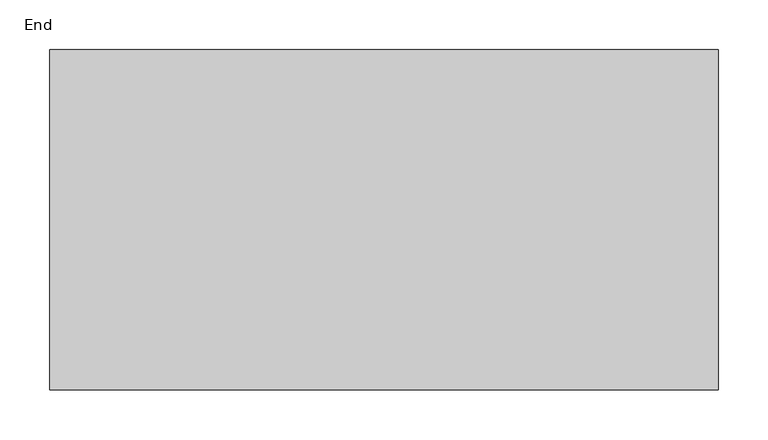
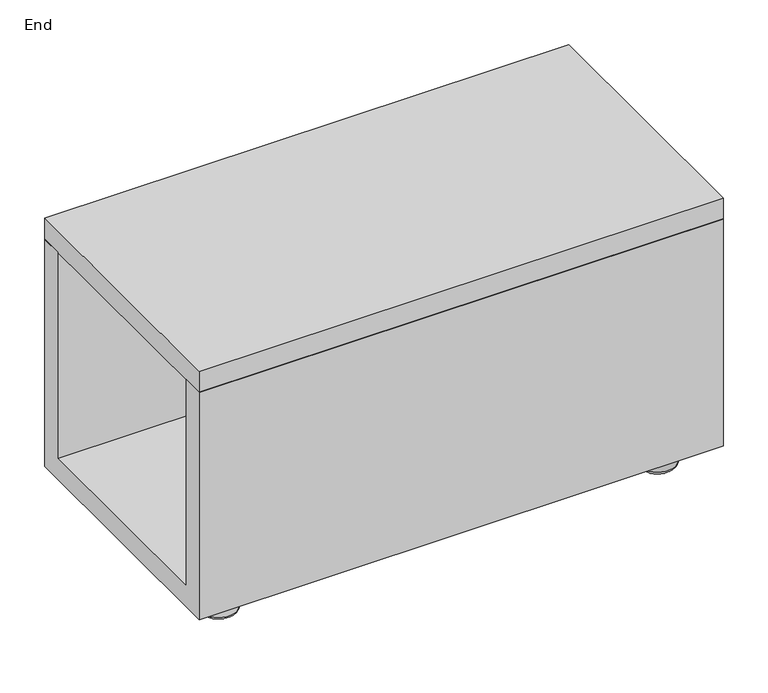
"""IFC4 building model written with IfcOpenShell, lengths in millimetres: furniture geometry, Steelcase Turnstone - Jenny - Table - Occasional - Low Feet : End."""

from ifc_helpers import new_model, si_unit, point, frame, origin, place, context, project, spatial, polyline, circle_curve, ellipse_curve, trimmed, outline, extrude, source, transform, mapped, element, save
from ifc_brep_helpers import plane_surface, cylinder_surface, revolved_surface, advanced_brep


def end_708bf382(model_context):
    return source(origin(), model_context, "Body", "SolidModel", [
        advanced_brep(
        [(629.9212936, -291.0741914, 0.0), (607.2241711, -291.0741914, 0.0), (618.5727324, -291.0741914, 0.0), (631.1912935, -291.0741914, 1.2699999), (605.9541712, -291.0741914, 1.2699999), (631.1912935, -291.0741914, 2.9122677), (605.9541712, -291.0741914, 2.9122677), (638.1106836, -291.0741914, 2.9122677), (599.0347811, -291.0741914, 2.9122677), (642.0900352, -291.0741914, 6.5984053), (595.0554295, -291.0741914, 6.5984053), (642.9427038, -291.0741914, 38.1), (594.2027609, -291.0741914, 38.1), (618.5727324, -291.0741914, 38.1)],
        [
            (0, 1, circle_curve(frame((618.5727324, -291.0741914, 0.0), z_axis=(0.0, 0.0, -1.0), x_axis=(-1.0, 0.0, 0.0)), 11.3485612)),
            (1, 2),
            (2, 0),
            (1, 0, circle_curve(frame((618.5727324, -291.0741914, 0.0), z_axis=(0.0, 0.0, -1.0), x_axis=(-1.0, 0.0, 0.0)), 11.3485612)),
            (3, 4, circle_curve(frame((618.5727324, -291.0741914, 1.2699999), z_axis=(0.0, 0.0, -1.0), x_axis=(-1.0, 0.0, 0.0)), 12.6185612)),
            (4, 1),
            (0, 3),
            (4, 3, circle_curve(frame((618.5727324, -291.0741914, 1.2699999), z_axis=(0.0, 0.0, -1.0), x_axis=(-1.0, 0.0, 0.0)), 12.6185612)),
            (5, 6, circle_curve(frame((618.5727324, -291.0741914, 2.9122677), z_axis=(0.0, 0.0, -1.0), x_axis=(-1.0, 0.0, 0.0)), 12.6185612)),
            (6, 4),
            (3, 5),
            (6, 5, circle_curve(frame((618.5727324, -291.0741914, 2.9122677), z_axis=(0.0, 0.0, -1.0), x_axis=(-1.0, 0.0, 0.0)), 12.6185612)),
            (7, 8, circle_curve(frame((618.5727324, -291.0741914, 2.9122677), z_axis=(0.0, 0.0, -1.0), x_axis=(-1.0, 0.0, 0.0)), 19.5379512)),
            (8, 6),
            (5, 7),
            (8, 7, circle_curve(frame((618.5727324, -291.0741914, 2.9122677), z_axis=(0.0, 0.0, -1.0), x_axis=(-1.0, 0.0, 0.0)), 19.5379512)),
            (9, 10, circle_curve(frame((618.5727324, -291.0741914, 6.5984053), z_axis=(0.0, 0.0, -1.0), x_axis=(-1.0, 0.0, 0.0)), 23.5173029)),
            (10, 8, circle_curve(frame((599.0347811, -291.0741914, 6.9032812), z_axis=(0.0, -1.0, 0.0), x_axis=(0.0, 0.0, -1.0)), 3.9910135)),
            (7, 9, circle_curve(frame((638.1106836, -291.0741914, 6.9032812), z_axis=(0.0, -1.0, 0.0), x_axis=(0.0, 0.0, -1.0)), 3.9910135)),
            (10, 9, circle_curve(frame((618.5727324, -291.0741914, 6.5984053), z_axis=(0.0, 0.0, -1.0), x_axis=(-1.0, 0.0, 0.0)), 23.5173029)),
            (11, 12, circle_curve(frame((618.5727324, -291.0741914, 38.1), z_axis=(0.0, 0.0, -1.0), x_axis=(-1.0, 0.0, 0.0)), 24.3699714)),
            (12, 10),
            (9, 11),
            (12, 11, circle_curve(frame((618.5727324, -291.0741914, 38.1), z_axis=(0.0, 0.0, -1.0), x_axis=(-1.0, 0.0, 0.0)), 24.3699714)),
            (13, 12),
            (11, 13),
        ],
        [
            plane_surface(frame((618.5727324, -291.0741914, 0.0), z_axis=(0.0, 0.0, -1.0), x_axis=(-1.0, 0.0, 0.0))),
            revolved_surface(polyline([(607.2241711, -291.0741914, 0.0), (605.9541712, -291.0741914, 1.2699999)]), (618.5727324, -291.0741914, 95.7636405), (0.0, 0.0, 1.0)),
            cylinder_surface(frame((618.5727324, -291.0741914, 95.7636405), z_axis=(0.0, 0.0, 1.0), x_axis=(-1.0, 0.0, 0.0)), 12.6185612),
            plane_surface(frame((618.5727324, -291.0741914, 2.9122677), z_axis=(0.0, 0.0, -1.0), x_axis=(-1.0, 0.0, 0.0))),
            revolved_surface(trimmed(ellipse_curve(frame((599.0347811, -291.0741914, 6.9032812), z_axis=(0.0, 1.0, 0.0), x_axis=(0.0, 0.0, -1.0)), 3.9910135, 3.9910135), [point((599.0347811, -291.0741914, 2.9122677))], [point((595.0554295, -291.0741914, 6.5984053))], True, "CARTESIAN"), (618.5727324, -291.0741914, 95.7636405), (0.0, 0.0, 1.0)),
            revolved_surface(polyline([(595.0554295, -291.0741914, 6.5984053), (594.2027609, -291.0741914, 38.1)]), (618.5727324, -291.0741914, 95.7636405), (0.0, 0.0, 1.0)),
            plane_surface(frame((618.5727324, -291.0741914, 38.1), z_axis=(0.0, 0.0, 1.0), x_axis=(-1.0, 0.0, 0.0))),
        ],
        [
            (0, [[1, 2, 3]]),
            (0, [[4, -3, -2]]),
            (1, [[5, 6, -1, 7]]),
            (1, [[8, -7, -4, -6]]),
            (2, [[9, 10, -5, 11]]),
            (2, [[12, -11, -8, -10]]),
            (3, [[13, 14, -9, 15]]),
            (3, [[16, -15, -12, -14]]),
            (4, [[17, 18, -13, 19]]),
            (4, [[20, -19, -16, -18]]),
            (5, [[21, 22, -17, 23]]),
            (5, [[24, -23, -20, -22]]),
            (6, [[25, -21, 26]]),
            (6, [[-26, -24, -25]]),
        ],
    ),
        advanced_brep(
        [(54.5272676, -291.0741914, 0.0), (65.8758289, -291.0741914, 0.0), (43.1787064, -291.0741914, 0.0), (67.1458288, -291.0741914, 1.2699999), (41.9087065, -291.0741914, 1.2699999), (67.1458288, -291.0741914, 2.9122677), (41.9087065, -291.0741914, 2.9122677), (74.0652189, -291.0741914, 2.9122677), (34.9893164, -291.0741914, 2.9122677), (78.0445705, -291.0741914, 6.5984053), (31.0099648, -291.0741914, 6.5984053), (78.8972391, -291.0741914, 38.1), (30.1572962, -291.0741914, 38.1), (54.5272676, -291.0741914, 38.1)],
        [
            (0, 1),
            (1, 2, circle_curve(frame((54.5272676, -291.0741914, 0.0), z_axis=(0.0, 0.0, -1.0), x_axis=(1.0, 0.0, 0.0)), 11.3485612)),
            (2, 0),
            (2, 1, circle_curve(frame((54.5272676, -291.0741914, 0.0), z_axis=(0.0, 0.0, -1.0), x_axis=(1.0, 0.0, 0.0)), 11.3485612)),
            (1, 3),
            (3, 4, circle_curve(frame((54.5272676, -291.0741914, 1.2699999), z_axis=(0.0, 0.0, -1.0), x_axis=(1.0, 0.0, 0.0)), 12.6185612)),
            (4, 2),
            (4, 3, circle_curve(frame((54.5272676, -291.0741914, 1.2699999), z_axis=(0.0, 0.0, -1.0), x_axis=(1.0, 0.0, 0.0)), 12.6185612)),
            (3, 5),
            (5, 6, circle_curve(frame((54.5272676, -291.0741914, 2.9122677), z_axis=(0.0, 0.0, -1.0), x_axis=(1.0, 0.0, 0.0)), 12.6185612)),
            (6, 4),
            (6, 5, circle_curve(frame((54.5272676, -291.0741914, 2.9122677), z_axis=(0.0, 0.0, -1.0), x_axis=(1.0, 0.0, 0.0)), 12.6185612)),
            (5, 7),
            (7, 8, circle_curve(frame((54.5272676, -291.0741914, 2.9122677), z_axis=(0.0, 0.0, -1.0), x_axis=(1.0, 0.0, 0.0)), 19.5379512)),
            (8, 6),
            (8, 7, circle_curve(frame((54.5272676, -291.0741914, 2.9122677), z_axis=(0.0, 0.0, -1.0), x_axis=(1.0, 0.0, 0.0)), 19.5379512)),
            (7, 9, circle_curve(frame((74.0652189, -291.0741914, 6.9032812), z_axis=(0.0, -1.0, 0.0), x_axis=(0.0, 0.0, -1.0)), 3.9910135)),
            (9, 10, circle_curve(frame((54.5272676, -291.0741914, 6.5984053), z_axis=(0.0, 0.0, -1.0), x_axis=(1.0, 0.0, 0.0)), 23.5173029)),
            (10, 8, circle_curve(frame((34.9893164, -291.0741914, 6.9032812), z_axis=(0.0, -1.0, 0.0), x_axis=(0.0, 0.0, -1.0)), 3.9910135)),
            (10, 9, circle_curve(frame((54.5272676, -291.0741914, 6.5984053), z_axis=(0.0, 0.0, -1.0), x_axis=(1.0, 0.0, 0.0)), 23.5173029)),
            (9, 11),
            (11, 12, circle_curve(frame((54.5272676, -291.0741914, 38.1), z_axis=(0.0, 0.0, -1.0), x_axis=(1.0, 0.0, 0.0)), 24.3699714)),
            (12, 10),
            (12, 11, circle_curve(frame((54.5272676, -291.0741914, 38.1), z_axis=(0.0, 0.0, -1.0), x_axis=(1.0, 0.0, 0.0)), 24.3699714)),
            (11, 13),
            (13, 12),
        ],
        [
            plane_surface(frame((54.5272676, -291.0741914, 0.0), z_axis=(0.0, 0.0, -1.0), x_axis=(1.0, 0.0, 0.0))),
            revolved_surface(polyline([(67.1458288, -291.0741914, 1.2699999), (65.8758289, -291.0741914, 0.0)]), (54.5272676, -291.0741914, 95.7636405), (0.0, 0.0, -1.0)),
            cylinder_surface(frame((54.5272676, -291.0741914, 95.7636405), z_axis=(0.0, 0.0, -1.0), x_axis=(1.0, 0.0, 0.0)), 12.6185612),
            plane_surface(frame((54.5272676, -291.0741914, 2.9122677), z_axis=(0.0, 0.0, -1.0), x_axis=(1.0, 0.0, 0.0))),
            revolved_surface(trimmed(ellipse_curve(frame((74.0652189, -291.0741914, 6.9032812), z_axis=(0.0, 1.0, 0.0), x_axis=(0.0, 0.0, -1.0)), 3.9910135, 3.9910135), [point((78.0445705, -291.0741914, 6.5984053))], [point((74.0652189, -291.0741914, 2.9122677))], True, "CARTESIAN"), (54.5272676, -291.0741914, 95.7636405), (0.0, 0.0, -1.0)),
            revolved_surface(polyline([(78.8972391, -291.0741914, 38.1), (78.0445705, -291.0741914, 6.5984053)]), (54.5272676, -291.0741914, 95.7636405), (0.0, 0.0, -1.0)),
            plane_surface(frame((54.5272676, -291.0741914, 38.1), z_axis=(0.0, 0.0, 1.0), x_axis=(1.0, 0.0, 0.0))),
        ],
        [
            (0, [[1, 2, 3]]),
            (0, [[-3, 4, -1]]),
            (1, [[-2, 5, 6, 7]]),
            (1, [[-4, -7, 8, -5]]),
            (2, [[-6, 9, 10, 11]]),
            (2, [[-8, -11, 12, -9]]),
            (3, [[-10, 13, 14, 15]]),
            (3, [[-12, -15, 16, -13]]),
            (4, [[-14, 17, 18, 19]]),
            (4, [[-16, -19, 20, -17]]),
            (5, [[-18, 21, 22, 23]]),
            (5, [[-20, -23, 24, -21]]),
            (6, [[-22, 25, 26]]),
            (6, [[-24, -26, -25]]),
        ],
    ),
        advanced_brep(
        [(618.5727324, -51.8258086, 0.0), (607.2241711, -51.8258086, 0.0), (629.9212936, -51.8258086, 0.0), (605.9541712, -51.8258086, 1.2699999), (631.1912935, -51.8258086, 1.2699999), (605.9541712, -51.8258086, 2.9122677), (631.1912935, -51.8258086, 2.9122677), (599.0347811, -51.8258086, 2.9122677), (638.1106836, -51.8258086, 2.9122677), (595.0554295, -51.8258086, 6.5984053), (642.0900352, -51.8258086, 6.5984053), (594.2027609, -51.8258086, 38.1), (642.9427038, -51.8258086, 38.1), (618.5727324, -51.8258086, 38.1)],
        [
            (0, 1),
            (1, 2, circle_curve(frame((618.5727324, -51.8258086, 0.0), z_axis=(0.0, 0.0, -1.0), x_axis=(-1.0, 0.0, 0.0)), 11.3485612)),
            (2, 0),
            (2, 1, circle_curve(frame((618.5727324, -51.8258086, 0.0), z_axis=(0.0, 0.0, -1.0), x_axis=(-1.0, 0.0, 0.0)), 11.3485612)),
            (1, 3),
            (3, 4, circle_curve(frame((618.5727324, -51.8258086, 1.2699999), z_axis=(0.0, 0.0, -1.0), x_axis=(-1.0, 0.0, 0.0)), 12.6185612)),
            (4, 2),
            (4, 3, circle_curve(frame((618.5727324, -51.8258086, 1.2699999), z_axis=(0.0, 0.0, -1.0), x_axis=(-1.0, 0.0, 0.0)), 12.6185612)),
            (3, 5),
            (5, 6, circle_curve(frame((618.5727324, -51.8258086, 2.9122677), z_axis=(0.0, 0.0, -1.0), x_axis=(-1.0, 0.0, 0.0)), 12.6185612)),
            (6, 4),
            (6, 5, circle_curve(frame((618.5727324, -51.8258086, 2.9122677), z_axis=(0.0, 0.0, -1.0), x_axis=(-1.0, 0.0, 0.0)), 12.6185612)),
            (5, 7),
            (7, 8, circle_curve(frame((618.5727324, -51.8258086, 2.9122677), z_axis=(0.0, 0.0, -1.0), x_axis=(-1.0, 0.0, 0.0)), 19.5379512)),
            (8, 6),
            (8, 7, circle_curve(frame((618.5727324, -51.8258086, 2.9122677), z_axis=(0.0, 0.0, -1.0), x_axis=(-1.0, 0.0, 0.0)), 19.5379512)),
            (7, 9, circle_curve(frame((599.0347811, -51.8258086, 6.9032812), z_axis=(0.0, 1.0, 0.0), x_axis=(0.0, 0.0, -1.0)), 3.9910135)),
            (9, 10, circle_curve(frame((618.5727324, -51.8258086, 6.5984053), z_axis=(0.0, 0.0, -1.0), x_axis=(-1.0, 0.0, 0.0)), 23.5173029)),
            (10, 8, circle_curve(frame((638.1106836, -51.8258086, 6.9032812), z_axis=(0.0, 1.0, 0.0), x_axis=(0.0, 0.0, -1.0)), 3.9910135)),
            (10, 9, circle_curve(frame((618.5727324, -51.8258086, 6.5984053), z_axis=(0.0, 0.0, -1.0), x_axis=(-1.0, 0.0, 0.0)), 23.5173029)),
            (9, 11),
            (11, 12, circle_curve(frame((618.5727324, -51.8258086, 38.1), z_axis=(0.0, 0.0, -1.0), x_axis=(-1.0, 0.0, 0.0)), 24.3699714)),
            (12, 10),
            (12, 11, circle_curve(frame((618.5727324, -51.8258086, 38.1), z_axis=(0.0, 0.0, -1.0), x_axis=(-1.0, 0.0, 0.0)), 24.3699714)),
            (11, 13),
            (13, 12),
        ],
        [
            plane_surface(frame((618.5727324, -51.8258086, 0.0), z_axis=(0.0, 0.0, -1.0), x_axis=(-1.0, 0.0, 0.0))),
            revolved_surface(polyline([(605.9541712, -51.8258086, 1.2699999), (607.2241711, -51.8258086, 0.0)]), (618.5727324, -51.8258086, 95.7636405), (0.0, 0.0, -1.0)),
            cylinder_surface(frame((618.5727324, -51.8258086, 95.7636405), z_axis=(0.0, 0.0, -1.0), x_axis=(-1.0, 0.0, 0.0)), 12.6185612),
            plane_surface(frame((618.5727324, -51.8258086, 2.9122677), z_axis=(0.0, 0.0, -1.0), x_axis=(-1.0, 0.0, 0.0))),
            revolved_surface(trimmed(ellipse_curve(frame((599.0347811, -51.8258086, 6.9032812), z_axis=(0.0, -1.0, 0.0), x_axis=(0.0, 0.0, -1.0)), 3.9910135, 3.9910135), [point((595.0554295, -51.8258086, 6.5984053))], [point((599.0347811, -51.8258086, 2.9122677))], True, "CARTESIAN"), (618.5727324, -51.8258086, 95.7636405), (0.0, 0.0, -1.0)),
            revolved_surface(polyline([(594.2027609, -51.8258086, 38.1), (595.0554295, -51.8258086, 6.5984053)]), (618.5727324, -51.8258086, 95.7636405), (0.0, 0.0, -1.0)),
            plane_surface(frame((618.5727324, -51.8258086, 38.1), z_axis=(0.0, 0.0, 1.0), x_axis=(-1.0, 0.0, 0.0))),
        ],
        [
            (0, [[1, 2, 3]]),
            (0, [[-3, 4, -1]]),
            (1, [[-2, 5, 6, 7]]),
            (1, [[-4, -7, 8, -5]]),
            (2, [[-6, 9, 10, 11]]),
            (2, [[-8, -11, 12, -9]]),
            (3, [[-10, 13, 14, 15]]),
            (3, [[-12, -15, 16, -13]]),
            (4, [[-14, 17, 18, 19]]),
            (4, [[-16, -19, 20, -17]]),
            (5, [[-18, 21, 22, 23]]),
            (5, [[-20, -23, 24, -21]]),
            (6, [[-22, 25, 26]]),
            (6, [[-24, -26, -25]]),
        ],
    ),
        advanced_brep(
        [(43.1787064, -51.8258086, 0.0), (65.8758289, -51.8258086, 0.0), (54.5272676, -51.8258086, 0.0), (41.9087065, -51.8258086, 1.2699999), (67.1458288, -51.8258086, 1.2699999), (41.9087065, -51.8258086, 2.9122677), (67.1458288, -51.8258086, 2.9122677), (34.9893164, -51.8258086, 2.9122677), (74.0652189, -51.8258086, 2.9122677), (31.0099648, -51.8258086, 6.5984053), (78.0445705, -51.8258086, 6.5984053), (30.1572962, -51.8258086, 38.1), (78.8972391, -51.8258086, 38.1), (54.5272676, -51.8258086, 38.1)],
        [
            (0, 1, circle_curve(frame((54.5272676, -51.8258086, 0.0), z_axis=(0.0, 0.0, -1.0), x_axis=(1.0, 0.0, 0.0)), 11.3485612)),
            (1, 2),
            (2, 0),
            (1, 0, circle_curve(frame((54.5272676, -51.8258086, 0.0), z_axis=(0.0, 0.0, -1.0), x_axis=(1.0, 0.0, 0.0)), 11.3485612)),
            (3, 4, circle_curve(frame((54.5272676, -51.8258086, 1.2699999), z_axis=(0.0, 0.0, -1.0), x_axis=(1.0, 0.0, 0.0)), 12.6185612)),
            (4, 1),
            (0, 3),
            (4, 3, circle_curve(frame((54.5272676, -51.8258086, 1.2699999), z_axis=(0.0, 0.0, -1.0), x_axis=(1.0, 0.0, 0.0)), 12.6185612)),
            (5, 6, circle_curve(frame((54.5272676, -51.8258086, 2.9122677), z_axis=(0.0, 0.0, -1.0), x_axis=(1.0, 0.0, 0.0)), 12.6185612)),
            (6, 4),
            (3, 5),
            (6, 5, circle_curve(frame((54.5272676, -51.8258086, 2.9122677), z_axis=(0.0, 0.0, -1.0), x_axis=(1.0, 0.0, 0.0)), 12.6185612)),
            (7, 8, circle_curve(frame((54.5272676, -51.8258086, 2.9122677), z_axis=(0.0, 0.0, -1.0), x_axis=(1.0, 0.0, 0.0)), 19.5379512)),
            (8, 6),
            (5, 7),
            (8, 7, circle_curve(frame((54.5272676, -51.8258086, 2.9122677), z_axis=(0.0, 0.0, -1.0), x_axis=(1.0, 0.0, 0.0)), 19.5379512)),
            (9, 10, circle_curve(frame((54.5272676, -51.8258086, 6.5984053), z_axis=(0.0, 0.0, -1.0), x_axis=(1.0, 0.0, 0.0)), 23.5173029)),
            (10, 8, circle_curve(frame((74.0652189, -51.8258086, 6.9032812), z_axis=(0.0, 1.0, 0.0), x_axis=(0.0, 0.0, -1.0)), 3.9910135)),
            (7, 9, circle_curve(frame((34.9893164, -51.8258086, 6.9032812), z_axis=(0.0, 1.0, 0.0), x_axis=(0.0, 0.0, -1.0)), 3.9910135)),
            (10, 9, circle_curve(frame((54.5272676, -51.8258086, 6.5984053), z_axis=(0.0, 0.0, -1.0), x_axis=(1.0, 0.0, 0.0)), 23.5173029)),
            (11, 12, circle_curve(frame((54.5272676, -51.8258086, 38.1), z_axis=(0.0, 0.0, -1.0), x_axis=(1.0, 0.0, 0.0)), 24.3699714)),
            (12, 10),
            (9, 11),
            (12, 11, circle_curve(frame((54.5272676, -51.8258086, 38.1), z_axis=(0.0, 0.0, -1.0), x_axis=(1.0, 0.0, 0.0)), 24.3699714)),
            (13, 12),
            (11, 13),
        ],
        [
            plane_surface(frame((54.5272676, -51.8258086, 0.0), z_axis=(0.0, 0.0, -1.0), x_axis=(1.0, 0.0, 0.0))),
            revolved_surface(polyline([(65.8758289, -51.8258086, 0.0), (67.1458288, -51.8258086, 1.2699999)]), (54.5272676, -51.8258086, 95.7636405), (0.0, 0.0, 1.0)),
            cylinder_surface(frame((54.5272676, -51.8258086, 95.7636405), z_axis=(0.0, 0.0, 1.0), x_axis=(1.0, 0.0, 0.0)), 12.6185612),
            plane_surface(frame((54.5272676, -51.8258086, 2.9122677), z_axis=(0.0, 0.0, -1.0), x_axis=(1.0, 0.0, 0.0))),
            revolved_surface(trimmed(ellipse_curve(frame((74.0652189, -51.8258086, 6.9032812), z_axis=(0.0, -1.0, 0.0), x_axis=(0.0, 0.0, -1.0)), 3.9910135, 3.9910135), [point((74.0652189, -51.8258086, 2.9122677))], [point((78.0445705, -51.8258086, 6.5984053))], True, "CARTESIAN"), (54.5272676, -51.8258086, 95.7636405), (0.0, 0.0, 1.0)),
            revolved_surface(polyline([(78.0445705, -51.8258086, 6.5984053), (78.8972391, -51.8258086, 38.1)]), (54.5272676, -51.8258086, 95.7636405), (0.0, 0.0, 1.0)),
            plane_surface(frame((54.5272676, -51.8258086, 38.1), z_axis=(0.0, 0.0, 1.0), x_axis=(1.0, 0.0, 0.0))),
        ],
        [
            (0, [[1, 2, 3]]),
            (0, [[4, -3, -2]]),
            (1, [[5, 6, -1, 7]]),
            (1, [[8, -7, -4, -6]]),
            (2, [[9, 10, -5, 11]]),
            (2, [[12, -11, -8, -10]]),
            (3, [[13, 14, -9, 15]]),
            (3, [[16, -15, -12, -14]]),
            (4, [[17, 18, -13, 19]]),
            (4, [[20, -19, -16, -18]]),
            (5, [[21, 22, -17, 23]]),
            (5, [[24, -23, -20, -22]]),
            (6, [[25, -21, 26]]),
            (6, [[-26, -24, -25]]),
        ],
    ),
        extrude(outline(polyline([(0.0, 38.1), (-342.9, 38.1), (-342.9, 346.9219475), (-314.3250727, 346.9219475), (-314.3250727, 66.4208367), (-28.575, 66.4208367), (-28.575, 346.9219475), (0.0, 346.9219475), (0.0, 38.1)])), frame((0.0, 0.0, 0.0), z_axis=(1.0, 0.0, 0.0), x_axis=(0.0, 1.0, 0.0)), (0.0, 0.0, 1.0), 673.1),
        extrude(outline(polyline([(673.1, 0.0), (673.1, -342.9), (0.0, -342.9), (0.0, 0.0), (673.1, 0.0)])), frame((0.0, 0.0, 346.9219475), z_axis=(0.0, 0.0, 1.0), x_axis=(1.0, 0.0, 0.0)), (0.0, 0.0, 1.0), 28.575),
    ])


if __name__ == "__main__":
    model = new_model("IFC4")
    model_context = context("Model", 3, world=origin())
    ifc_project = project(units=[si_unit("LENGTHUNIT", "METRE", prefix="MILLI")], contexts=[model_context])
    site = spatial("IfcSite", under=ifc_project)
    building = spatial("IfcBuilding", under=site)
    placement = place(None, origin())
    end_shape = end_708bf382(model_context)
    element("IfcFurniture", 1, ObjectType="Steelcase Turnstone - Jenny - Table - Occasional - Low Feet : End", at=placement, inside=building, context=model_context, shape_type="MappedRepresentation", body=[
        mapped(end_shape, transform((0.0, 0.0, 0.0), x_axis=(1.0, 0.0, 0.0), y_axis=(0.0, 1.0, 0.0), z_axis=(0.0, 0.0, 1.0))),
    ])
    save(model, "model.ifc")
